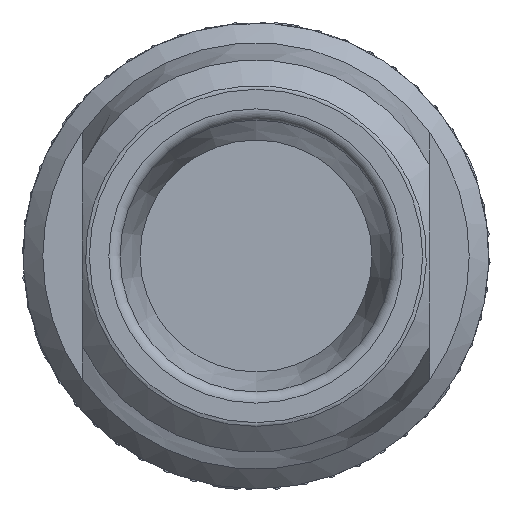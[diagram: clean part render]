
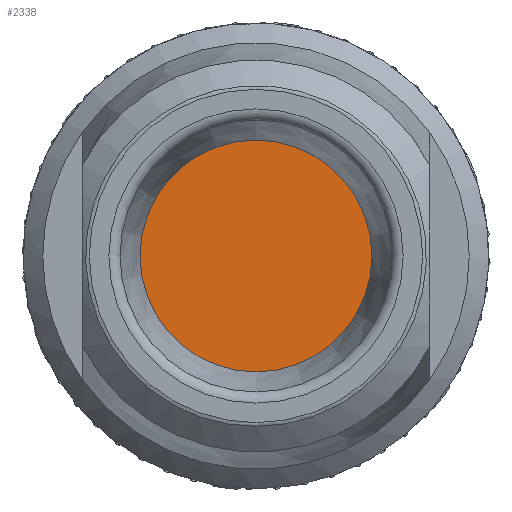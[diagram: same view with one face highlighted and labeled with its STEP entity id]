
A CAD part, front view. The second image highlights one B-rep face of the part: STEP entity #2338.
In plain terms, the highlighted planar face has unit normal (0, -1, 0).
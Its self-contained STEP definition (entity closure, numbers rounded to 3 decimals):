
#156=PLANE('',#14103);
#2338=ADVANCED_FACE('',(#3427),#156,.F.);
#3427=FACE_OUTER_BOUND('',#4302,.T.);
#4302=EDGE_LOOP('',(#6089));
#5198=CIRCLE('',#14078,5.);
#6089=ORIENTED_EDGE('',*,*,#11383,.F.);
#10084=VERTEX_POINT('',#19735);
#11383=EDGE_CURVE('',#10084,#10084,#5198,.T.);
#14078=AXIS2_PLACEMENT_3D('',#19734,#15823,#15824);
#14103=AXIS2_PLACEMENT_3D('',#19789,#15875,#15876);
#15823=DIRECTION('',(0.,1.,0.));
#15824=DIRECTION('',(0.,0.,-1.));
#15875=DIRECTION('',(0.,1.,0.));
#15876=DIRECTION('',(0.,0.,1.));
#19734=CARTESIAN_POINT('',(0.,-39.838,0.));
#19735=CARTESIAN_POINT('',(0.,-39.838,-5.));
#19789=CARTESIAN_POINT('',(0.,-39.838,0.));
